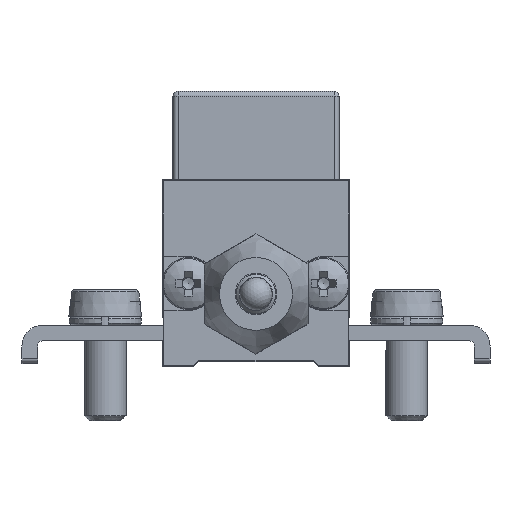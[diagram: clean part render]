
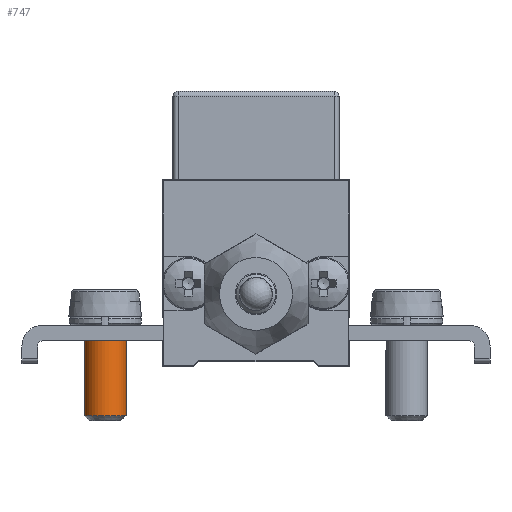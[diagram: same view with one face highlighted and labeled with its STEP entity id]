
A CAD part, front view. The second image highlights one B-rep face of the part: STEP entity #747.
In plain terms, the highlighted cylindrical face has radius 2 mm (diameter 4 mm), a full revolution.
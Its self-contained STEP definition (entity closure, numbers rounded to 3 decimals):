
#747 = ADVANCED_FACE( '', ( #1945, #1946 ), #1947, .T. );
#1945 = FACE_OUTER_BOUND( '', #3974, .T. );
#1946 = FACE_OUTER_BOUND( '', #3975, .T. );
#1947 = CYLINDRICAL_SURFACE( '', #3976, 2. );
#3974 = EDGE_LOOP( '', ( #11600 ) );
#3975 = EDGE_LOOP( '', ( #11601 ) );
#3976 = AXIS2_PLACEMENT_3D( '', #11602, #11603, #11604 );
#11600 = ORIENTED_EDGE( '', *, *, #15648, .T. );
#11601 = ORIENTED_EDGE( '', *, *, #15649, .T. );
#11602 = CARTESIAN_POINT( '', ( -14.5, 11., 32.8 ) );
#11603 = DIRECTION( '', ( 0., 0., -1. ) );
#11604 = DIRECTION( '', ( 1., 0., 0. ) );
#15648 = EDGE_CURVE( '', #18094, #18094, #18095, .F. );
#15649 = EDGE_CURVE( '', #18096, #18096, #18097, .T. );
#18094 = VERTEX_POINT( '', #22460 );
#18095 = CIRCLE( '', #22461, 2. );
#18096 = VERTEX_POINT( '', #22462 );
#18097 = CIRCLE( '', #22463, 2. );
#22460 = CARTESIAN_POINT( '', ( -16.5, 11., -4.7 ) );
#22461 = AXIS2_PLACEMENT_3D( '', #29884, #29885, #29886 );
#22462 = CARTESIAN_POINT( '', ( -12.5, 11., 3.8 ) );
#22463 = AXIS2_PLACEMENT_3D( '', #29887, #29888, #29889 );
#29884 = CARTESIAN_POINT( '', ( -14.5, 11., -4.7 ) );
#29885 = DIRECTION( '', ( 0., 0., -1. ) );
#29886 = DIRECTION( '', ( -1., 0., 0. ) );
#29887 = CARTESIAN_POINT( '', ( -14.5, 11., 3.8 ) );
#29888 = DIRECTION( '', ( 0., 0., -1. ) );
#29889 = DIRECTION( '', ( 1., 0., 0. ) );
